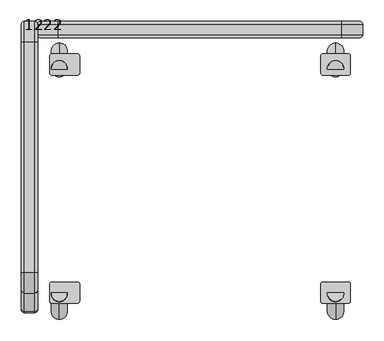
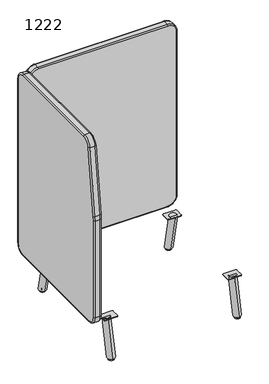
"""IFC4 building model written with IfcOpenShell, lengths in millimetres: furniture geometry, Laguna-Modular-Hideout-ERG : 1222."""

from ifc_helpers import new_model, si_unit, point, frame, frame_2d, origin, place, context, project, spatial, polyline, circle_curve, ellipse_curve, trimmed, segment, composite_curve, outline, extrude, source, transform, mapped, element, save
from ifc_brep_helpers import plane_surface, cylinder_surface, revolved_surface, advanced_brep


def furniture_1222_d6062fc0(model_context):
    return source(origin(), model_context, "Body", "SolidModel", [
        advanced_brep(
        [(-4630.9921763, 1222.7258502, 203.2), (-4630.9921763, 1272.2558502, 252.73), (-4624.6421763, 1265.9058502, 252.73), (-4624.6421763, 1222.7258502, 209.55), (-4656.3921763, 1222.7258502, 203.2), (-4656.3921763, 1272.2558502, 252.73), (-4662.7421763, 1222.7258502, 209.55), (-4662.7421763, 1265.9058502, 252.73), (-4624.6421763, 638.2210502, 209.55), (-4630.9921763, 638.2210502, 203.2), (-4656.3921763, 638.2210502, 203.2), (-4662.7421763, 638.2210502, 209.55), (-4630.9921763, 683.6397434, 1189.5820944), (-4624.6421763, 683.6397434, 1183.2320944), (-4624.6421763, 1222.7258502, 1183.2320944), (-4630.9921763, 1222.7258502, 1189.5820944), (-4656.3921763, 1222.7258502, 1189.5820944), (-4656.3921763, 683.6397434, 1189.5820944), (-4662.7421763, 1222.7258502, 1183.2320944), (-4662.7421763, 683.6397434, 1183.2320944), (-4624.6421763, 1265.9058502, 1140.0520944), (-4630.9921763, 1272.2558502, 1140.0520944), (-4656.3921763, 1272.2558502, 1140.0520944), (-4662.7421763, 1265.9058502, 1140.0520944), (-4624.6421763, 595.9808502, 251.7902), (-4630.9921763, 589.6308502, 251.7902), (-4656.3921763, 589.6308502, 251.7902), (-4662.7421763, 595.9808502, 251.7902), (-4624.6421763, 595.9808502, 775.6528209), (-4630.9921763, 589.6308502, 775.6528209), (-4656.3921763, 589.6308502, 775.6528209), (-4662.7421763, 595.9808502, 775.6528209), (-4630.9921763, 591.2362338, 800.9039123), (-4624.6421763, 597.5351069, 800.0997374), (-4624.6421763, 641.7396393, 1146.3412658), (-4630.9921763, 635.4407662, 1147.1454407), (-4656.3921763, 635.4407662, 1147.1454407), (-4656.3921763, 591.2362338, 800.9039123), (-4662.7421763, 641.7396393, 1146.3412658), (-4662.7421763, 597.5351069, 800.0997374)],
        [
            (0, 1, circle_curve(frame((-4630.9921763, 1222.7258502, 252.73), z_axis=(1.0, 0.0, 0.0), x_axis=(0.0, 1.0, 0.0)), 49.53)),
            (1, 2, circle_curve(frame((-4630.9921763, 1265.9058502, 252.73), z_axis=(0.0, 0.0, -1.0), x_axis=(0.0, 1.0, 0.0)), 6.35)),
            (2, 3, circle_curve(frame((-4624.6421763, 1222.7258502, 252.73), z_axis=(-1.0, 0.0, 0.0), x_axis=(0.0, 1.0, 0.0)), 43.18)),
            (3, 0, circle_curve(frame((-4630.9921763, 1222.7258502, 209.55), z_axis=(0.0, 1.0, 0.0), x_axis=(0.0, 0.0, -1.0)), 6.35)),
            (0, 4),
            (4, 5, circle_curve(frame((-4656.3921763, 1222.7258502, 252.73), z_axis=(1.0, 0.0, 0.0), x_axis=(0.0, 1.0, 0.0)), 49.53)),
            (5, 1),
            (4, 6, circle_curve(frame((-4656.3921763, 1222.7258502, 209.55), z_axis=(0.0, 1.0, 0.0), x_axis=(0.0, 0.0, -1.0)), 6.35)),
            (6, 7, circle_curve(frame((-4662.7421763, 1222.7258502, 252.73), z_axis=(1.0, 0.0, 0.0), x_axis=(0.0, 1.0, 0.0)), 43.18)),
            (7, 5, circle_curve(frame((-4656.3921763, 1265.9058502, 252.73), z_axis=(0.0, 0.0, -1.0), x_axis=(0.0, 1.0, 0.0)), 6.35)),
            (3, 8),
            (8, 9, circle_curve(frame((-4630.9921763, 638.2210502, 209.55), z_axis=(0.0, 1.0, 0.0), x_axis=(0.0, 0.0, -1.0)), 6.35)),
            (9, 0),
            (9, 10),
            (10, 4),
            (10, 11, circle_curve(frame((-4656.3921763, 638.2210502, 209.55), z_axis=(0.0, 1.0, 0.0), x_axis=(0.0, 0.0, -1.0)), 6.35)),
            (11, 6),
            (12, 13, circle_curve(frame((-4630.9921763, 683.6397434, 1183.2320944), z_axis=(0.0, 1.0, 0.0), x_axis=(0.0, 0.0, 1.0)), 6.35)),
            (13, 14),
            (14, 15, circle_curve(frame((-4630.9921763, 1222.7258502, 1183.2320944), z_axis=(0.0, -1.0, 0.0), x_axis=(0.0, 0.0, 1.0)), 6.35)),
            (15, 12),
            (15, 16),
            (16, 17),
            (17, 12),
            (16, 18, circle_curve(frame((-4656.3921763, 1222.7258502, 1183.2320944), z_axis=(0.0, -1.0, 0.0), x_axis=(0.0, 0.0, 1.0)), 6.35)),
            (18, 19),
            (19, 17, circle_curve(frame((-4656.3921763, 683.6397434, 1183.2320944), z_axis=(0.0, 1.0, 0.0), x_axis=(0.0, 0.0, 1.0)), 6.35)),
            (14, 20, circle_curve(frame((-4624.6421763, 1222.7258502, 1140.0520944), z_axis=(-1.0, 0.0, 0.0), x_axis=(0.0, 0.0, 1.0)), 43.18)),
            (20, 21, circle_curve(frame((-4630.9921763, 1265.9058502, 1140.0520944), z_axis=(0.0, 0.0, 1.0), x_axis=(0.0, 1.0, 0.0)), 6.35)),
            (21, 15, circle_curve(frame((-4630.9921763, 1222.7258502, 1140.0520944), z_axis=(1.0, 0.0, 0.0), x_axis=(0.0, 0.0, 1.0)), 49.53)),
            (21, 22),
            (22, 16, circle_curve(frame((-4656.3921763, 1222.7258502, 1140.0520944), z_axis=(1.0, 0.0, 0.0), x_axis=(0.0, 0.0, 1.0)), 49.53)),
            (22, 23, circle_curve(frame((-4656.3921763, 1265.9058502, 1140.0520944), z_axis=(0.0, 0.0, 1.0), x_axis=(0.0, 1.0, 0.0)), 6.35)),
            (23, 18, circle_curve(frame((-4662.7421763, 1222.7258502, 1140.0520944), z_axis=(1.0, 0.0, 0.0), x_axis=(0.0, 0.0, 1.0)), 43.18)),
            (1, 21),
            (20, 2),
            (5, 22),
            (7, 23),
            (8, 24, circle_curve(frame((-4624.6421763, 638.2210502, 251.7902), z_axis=(-1.0, 0.0, 0.0), x_axis=(0.0, 0.0, -1.0)), 42.2402)),
            (24, 25, circle_curve(frame((-4630.9921763, 595.9808502, 251.7902), z_axis=(0.0, 0.0, -1.0), x_axis=(0.0, -1.0, 0.0)), 6.35)),
            (25, 9, circle_curve(frame((-4630.9921763, 638.2210502, 251.7902), z_axis=(1.0, 0.0, 0.0), x_axis=(0.0, 0.0, -1.0)), 48.5902)),
            (25, 26),
            (26, 10, circle_curve(frame((-4656.3921763, 638.2210502, 251.7902), z_axis=(1.0, 0.0, 0.0), x_axis=(0.0, 0.0, -1.0)), 48.5902)),
            (26, 27, circle_curve(frame((-4656.3921763, 595.9808502, 251.7902), z_axis=(0.0, 0.0, -1.0), x_axis=(0.0, -1.0, 0.0)), 6.35)),
            (27, 11, circle_curve(frame((-4662.7421763, 638.2210502, 251.7902), z_axis=(1.0, 0.0, 0.0), x_axis=(0.0, 0.0, -1.0)), 42.2402)),
            (24, 28),
            (28, 29, circle_curve(frame((-4630.9921763, 595.9808502, 775.6528209), z_axis=(0.0, 0.0, -1.0), x_axis=(0.0, -1.0, 0.0)), 6.35)),
            (29, 25),
            (29, 30),
            (30, 26),
            (30, 31, circle_curve(frame((-4656.3921763, 595.9808502, 775.6528209), z_axis=(0.0, 0.0, -1.0), x_axis=(0.0, -1.0, 0.0)), 6.35)),
            (31, 27),
            (32, 33, circle_curve(frame((-4630.9921763, 597.5351069, 800.0997374), z_axis=(0.0, 0.12664171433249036, 0.9919485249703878), x_axis=(0.0, -0.9919485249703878, 0.12664171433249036)), 6.35)),
            (33, 34),
            (34, 35, circle_curve(frame((-4630.9921763, 641.7396393, 1146.3412658), z_axis=(0.0, -0.12664171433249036, -0.9919485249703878), x_axis=(0.0, -0.9919485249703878, 0.12664171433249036)), 6.35)),
            (35, 32),
            (35, 36),
            (36, 37),
            (37, 32),
            (36, 38, circle_curve(frame((-4656.3921763, 641.7396393, 1146.3412658), z_axis=(0.0, -0.12664171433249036, -0.9919485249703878), x_axis=(0.0, -0.9919485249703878, 0.12664171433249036)), 6.35)),
            (38, 39),
            (39, 37, circle_curve(frame((-4656.3921763, 597.5351069, 800.0997374), z_axis=(0.0, 0.12664171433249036, 0.9919485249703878), x_axis=(0.0, -0.9919485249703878, 0.12664171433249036)), 6.35)),
            (28, 33, circle_curve(frame((-4624.6421763, 789.0208502, 775.6528209), z_axis=(-1.0, 0.0, 0.0), x_axis=(0.0, -1.0, 0.0)), 193.04)),
            (32, 29, circle_curve(frame((-4630.9921763, 789.0208502, 775.6528209), z_axis=(1.0, 0.0, 0.0), x_axis=(0.0, -1.0, 0.0)), 199.39)),
            (37, 30, circle_curve(frame((-4656.3921763, 789.0208502, 775.6528209), z_axis=(1.0, 0.0, 0.0), x_axis=(0.0, -1.0, 0.0)), 199.39)),
            (39, 31, circle_curve(frame((-4662.7421763, 789.0208502, 775.6528209), z_axis=(1.0, 0.0, 0.0), x_axis=(0.0, -1.0, 0.0)), 193.04)),
            (13, 34, circle_curve(frame((-4624.6421763, 683.6397434, 1140.9918944), z_axis=(1.0, 0.0, 0.0), x_axis=(0.0, -0.9919485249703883, 0.12664171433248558)), 42.2402)),
            (12, 35, circle_curve(frame((-4630.9921763, 683.6397434, 1140.9918944), z_axis=(1.0, 0.0, 0.0), x_axis=(0.0, -0.9919485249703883, 0.12664171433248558)), 48.5902)),
            (17, 36, circle_curve(frame((-4656.3921763, 683.6397434, 1140.9918944), z_axis=(1.0, 0.0, 0.0), x_axis=(0.0, -0.9919485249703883, 0.12664171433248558)), 48.5902)),
            (19, 38, circle_curve(frame((-4662.7421763, 683.6397434, 1140.9918944), z_axis=(1.0, 0.0, 0.0), x_axis=(0.0, -0.9919485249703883, 0.12664171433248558)), 42.2402)),
        ],
        [
            revolved_surface(trimmed(ellipse_curve(frame((-4630.9921763, 1265.9058502, 252.73), z_axis=(0.0, 0.0, 1.0), x_axis=(0.0, 1.0, 0.0)), 6.35, 6.35), [point((-4624.6421763, 1265.9058502, 252.73))], [point((-4630.9921763, 1272.2558502, 252.73))], True, "CARTESIAN"), (-4662.7421763, 1222.7258502, 252.73), (-1.0, 0.0, 0.0)),
            cylinder_surface(frame((-4662.7421763, 1222.7258502, 252.73), z_axis=(-1.0, 0.0, 0.0), x_axis=(0.0, 1.0, 0.0)), 49.53),
            revolved_surface(trimmed(ellipse_curve(frame((-4656.3921763, 1265.9058502, 252.73), z_axis=(0.0, 0.0, 1.0), x_axis=(0.0, 1.0, 0.0)), 6.35, 6.35), [point((-4656.3921763, 1272.2558502, 252.73))], [point((-4662.7421763, 1265.9058502, 252.73))], True, "CARTESIAN"), (-4662.7421763, 1222.7258502, 252.73), (-1.0, 0.0, 0.0)),
            cylinder_surface(frame((-4630.9921763, 1222.7258502, 209.55), z_axis=(0.0, 1.0, 0.0), x_axis=(0.0, 0.0, -1.0)), 6.35),
            plane_surface(frame((-4630.9921763, 1222.7258502, 203.2), z_axis=(0.0, 0.0, -1.0), x_axis=(0.0, -1.0, 0.0))),
            cylinder_surface(frame((-4656.3921763, 1222.7258502, 209.55), z_axis=(0.0, 1.0, 0.0), x_axis=(0.0, 0.0, -1.0)), 6.35),
            cylinder_surface(frame((-4630.9921763, 683.6397434, 1183.2320944), z_axis=(0.0, -1.0, 0.0), x_axis=(0.0, 0.0, 1.0)), 6.35),
            plane_surface(frame((-4630.9921763, 683.6397434, 1189.5820944), z_axis=(0.0, 0.0, 1.0), x_axis=(0.0, 1.0, 0.0))),
            cylinder_surface(frame((-4656.3921763, 683.6397434, 1183.2320944), z_axis=(0.0, -1.0, 0.0), x_axis=(0.0, 0.0, 1.0)), 6.35),
            revolved_surface(trimmed(ellipse_curve(frame((-4630.9921763, 1222.7258502, 1183.2320944), z_axis=(0.0, -1.0, 0.0), x_axis=(0.0, 0.0, 1.0)), 6.35, 6.35), [point((-4624.6421763, 1222.7258502, 1183.2320944))], [point((-4630.9921763, 1222.7258502, 1189.5820944))], True, "CARTESIAN"), (-4662.7421763, 1222.7258502, 1140.0520944), (-1.0, 0.0, 0.0)),
            cylinder_surface(frame((-4662.7421763, 1222.7258502, 1140.0520944), z_axis=(-1.0, 0.0, 0.0), x_axis=(0.0, 0.0, 1.0)), 49.53),
            revolved_surface(trimmed(ellipse_curve(frame((-4656.3921763, 1222.7258502, 1183.2320944), z_axis=(0.0, -1.0, 0.0), x_axis=(0.0, 0.0, 1.0)), 6.35, 6.35), [point((-4656.3921763, 1222.7258502, 1189.5820944))], [point((-4662.7421763, 1222.7258502, 1183.2320944))], True, "CARTESIAN"), (-4662.7421763, 1222.7258502, 1140.0520944), (-1.0, 0.0, 0.0)),
            cylinder_surface(frame((-4630.9921763, 1265.9058502, 1140.0520944), z_axis=(0.0, 0.0, 1.0), x_axis=(0.0, 1.0, 0.0)), 6.35),
            plane_surface(frame((-4630.9921763, 1272.2558502, 1140.0520944), z_axis=(0.0, 1.0, 0.0), x_axis=(0.0, 0.0, -1.0))),
            cylinder_surface(frame((-4656.3921763, 1265.9058502, 1140.0520944), z_axis=(0.0, 0.0, 1.0), x_axis=(0.0, 1.0, 0.0)), 6.35),
            revolved_surface(trimmed(ellipse_curve(frame((-4630.9921763, 638.2210502, 209.55), z_axis=(0.0, 1.0, 0.0), x_axis=(0.0, 0.0, -1.0)), 6.35, 6.35), [point((-4624.6421763, 638.2210502, 209.55))], [point((-4630.9921763, 638.2210502, 203.2))], True, "CARTESIAN"), (-4662.7421763, 638.2210502, 251.7902), (-1.0, 0.0, 0.0)),
            cylinder_surface(frame((-4662.7421763, 638.2210502, 251.7902), z_axis=(-1.0, 0.0, 0.0), x_axis=(0.0, 0.0, -1.0)), 48.5902),
            revolved_surface(trimmed(ellipse_curve(frame((-4656.3921763, 638.2210502, 209.55), z_axis=(0.0, 1.0, 0.0), x_axis=(0.0, 0.0, -1.0)), 6.35, 6.35), [point((-4656.3921763, 638.2210502, 203.2))], [point((-4662.7421763, 638.2210502, 209.55))], True, "CARTESIAN"), (-4662.7421763, 638.2210502, 251.7902), (-1.0, 0.0, 0.0)),
            cylinder_surface(frame((-4630.9921763, 595.9808502, 251.7902), z_axis=(0.0, 0.0, -1.0), x_axis=(0.0, -1.0, 0.0)), 6.35),
            plane_surface(frame((-4630.9921763, 589.6308502, 251.7902), z_axis=(0.0, -1.0, 0.0), x_axis=(0.0, 0.0, 1.0))),
            cylinder_surface(frame((-4656.3921763, 595.9808502, 251.7902), z_axis=(0.0, 0.0, -1.0), x_axis=(0.0, -1.0, 0.0)), 6.35),
            cylinder_surface(frame((-4630.9921763, 597.5351069, 800.0997374), z_axis=(0.0, -0.12664171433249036, -0.9919485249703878), x_axis=(0.0, -0.9919485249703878, 0.12664171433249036)), 6.35),
            plane_surface(frame((-4630.9921763, 591.2362338, 800.9039123), z_axis=(0.0, -0.9919485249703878, 0.1266417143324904), x_axis=(0.0, 0.1266417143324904, 0.9919485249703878))),
            cylinder_surface(frame((-4656.3921763, 597.5351069, 800.0997374), z_axis=(0.0, -0.12664171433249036, -0.9919485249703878), x_axis=(0.0, -0.9919485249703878, 0.12664171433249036)), 6.35),
            revolved_surface(trimmed(ellipse_curve(frame((-4630.9921763, 595.9808502, 775.6528209), z_axis=(0.0, 0.0, -1.0), x_axis=(0.0, -1.0, 0.0)), 6.35, 6.35), [point((-4624.6421763, 595.9808502, 775.6528209))], [point((-4630.9921763, 589.6308502, 775.6528209))], True, "CARTESIAN"), (-4662.7421763, 789.0208502, 775.6528209), (-1.0, 0.0, 0.0)),
            cylinder_surface(frame((-4662.7421763, 789.0208502, 775.6528209), z_axis=(-1.0, 0.0, 0.0), x_axis=(0.0, -1.0, 0.0)), 199.39),
            revolved_surface(trimmed(ellipse_curve(frame((-4656.3921763, 595.9808502, 775.6528209), z_axis=(0.0, 0.0, -1.0), x_axis=(0.0, -1.0, 0.0)), 6.35, 6.35), [point((-4656.3921763, 589.6308502, 775.6528209))], [point((-4662.7421763, 595.9808502, 775.6528209))], True, "CARTESIAN"), (-4662.7421763, 789.0208502, 775.6528209), (-1.0, 0.0, 0.0)),
            plane_surface(frame((-4624.6421763, 683.6397434, 1140.9918944), z_axis=(1.0, 0.0, 0.0), x_axis=(0.0, -0.9919485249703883, 0.12664171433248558))),
            revolved_surface(trimmed(ellipse_curve(frame((-4630.9921763, 641.7396393, 1146.3412658), z_axis=(0.0, -0.12664171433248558, -0.9919485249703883), x_axis=(0.0, -0.9919485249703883, 0.12664171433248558)), 6.35, 6.35), [point((-4624.6421763, 641.7396393, 1146.3412658))], [point((-4630.9921763, 635.4407662, 1147.1454407))], True, "CARTESIAN"), (-4662.7421763, 683.6397434, 1140.9918944), (-1.0, 0.0, 0.0)),
            cylinder_surface(frame((-4662.7421763, 683.6397434, 1140.9918944), z_axis=(-1.0, 0.0, 0.0), x_axis=(0.0, -0.9919485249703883, 0.12664171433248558)), 48.5902),
            revolved_surface(trimmed(ellipse_curve(frame((-4656.3921763, 641.7396393, 1146.3412658), z_axis=(0.0, -0.12664171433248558, -0.9919485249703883), x_axis=(0.0, -0.9919485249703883, 0.12664171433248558)), 6.35, 6.35), [point((-4656.3921763, 635.4407662, 1147.1454407))], [point((-4662.7421763, 641.7396393, 1146.3412658))], True, "CARTESIAN"), (-4662.7421763, 683.6397434, 1140.9918944), (-1.0, 0.0, 0.0)),
            plane_surface(frame((-4662.7421763, 683.6397434, 1140.9918944), z_axis=(-1.0, 0.0, 0.0), x_axis=(0.0, -0.9919485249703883, 0.12664171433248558))),
        ],
        [
            (0, [[1, 2, 3, 4]]),
            (1, [[-1, 5, 6, 7]]),
            (2, [[-6, 8, 9, 10]]),
            (3, [[-4, 11, 12, 13]]),
            (4, [[-5, -13, 14, 15]]),
            (5, [[-8, -15, 16, 17]]),
            (6, [[18, 19, 20, 21]]),
            (7, [[-21, 22, 23, 24]]),
            (8, [[-23, 25, 26, 27]]),
            (9, [[-20, 28, 29, 30]]),
            (10, [[-22, -30, 31, 32]]),
            (11, [[-25, -32, 33, 34]]),
            (12, [[-2, 35, -29, 36]]),
            (13, [[-7, 37, -31, -35]]),
            (14, [[-10, 38, -33, -37]]),
            (15, [[-12, 39, 40, 41]]),
            (16, [[-14, -41, 42, 43]]),
            (17, [[-16, -43, 44, 45]]),
            (18, [[-40, 46, 47, 48]]),
            (19, [[-42, -48, 49, 50]]),
            (20, [[-44, -50, 51, 52]]),
            (21, [[53, 54, 55, 56]]),
            (22, [[-56, 57, 58, 59]]),
            (23, [[-58, 60, 61, 62]]),
            (24, [[-47, 63, -53, 64]]),
            (25, [[-49, -64, -59, 65]]),
            (26, [[-51, -65, -62, 66]]),
            (27, [[-3, -36, -28, -19, 67, -54, -63, -46, -39, -11]]),
            (28, [[-18, 68, -55, -67]]),
            (29, [[-24, 69, -57, -68]]),
            (30, [[-27, 70, -60, -69]]),
            (31, [[-9, -17, -45, -52, -66, -61, -70, -26, -34, -38]]),
        ],
    ),
        advanced_brep(
        [(-3926.1421763, 1179.9236711, 207.1607177), (-3926.1421763, 1142.6562475, 199.2392823), (-3926.1421763, 1182.8462897, 10.16), (-3926.1421763, 1221.7974663, 10.16)],
        [
            (0, 1, circle_curve(frame((-3926.1421763, 1161.2899593, 203.2), z_axis=(0.0, -0.2079116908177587, 0.9781476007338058), x_axis=(0.0, -0.9781476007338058, -0.2079116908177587)), 19.05)),
            (1, 0, circle_curve(frame((-3926.1421763, 1161.2899593, 203.2), z_axis=(0.0, -0.2079116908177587, 0.9781476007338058), x_axis=(0.0, -0.9781476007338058, -0.2079116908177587)), 19.05)),
            (1, 2),
            (2, 3, ellipse_curve(frame((-3926.1421763, 1202.321878, 10.16), z_axis=(0.0, 0.0, 1.0), x_axis=(0.0, -0.9999999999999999, 0.0)), 19.4755883, 19.05)),
            (3, 0),
            (3, 2, ellipse_curve(frame((-3926.1421763, 1202.321878, 10.16), z_axis=(0.0, 0.0, 1.0), x_axis=(0.0, -0.9999999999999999, 0.0)), 19.4755883, 19.05)),
        ],
        [
            plane_surface(frame((-3926.1421763, 1161.2899593, 203.2), z_axis=(0.0, -0.2079116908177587, 0.9781476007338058), x_axis=(-1.0, 0.0, 0.0))),
            cylinder_surface(frame((-3926.1421763, 1161.2899593, 203.2), z_axis=(0.0, -0.2079116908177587, 0.9781476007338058), x_axis=(0.0, -0.9781476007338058, -0.2079116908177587)), 19.05),
            plane_surface(frame((-4662.7421763, 1308.7683502, 10.16), z_axis=(0.0, 0.0, -1.0), x_axis=(-1.0, 0.0, 0.0))),
        ],
        [
            (0, [[1, 2]]),
            (1, [[-2, 3, 4, 5]]),
            (1, [[-1, -5, 6, -3]]),
            (2, [[-4, -6]]),
        ],
    ),
        advanced_brep(
        [(-3926.1421763, 652.9523278, 199.2392823), (-3926.1421763, 615.6849042, 207.1607177), (-3926.1421763, 612.7622857, 10.16), (-3926.1421763, 573.811109, 10.16)],
        [
            (0, 1, circle_curve(frame((-3926.1421763, 634.318616, 203.2), z_axis=(0.0, 0.20791169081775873, 0.9781476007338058), x_axis=(0.0, -0.9781476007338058, 0.20791169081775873)), 19.05)),
            (1, 0, circle_curve(frame((-3926.1421763, 634.318616, 203.2), z_axis=(0.0, 0.20791169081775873, 0.9781476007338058), x_axis=(0.0, -0.9781476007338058, 0.20791169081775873)), 19.05)),
            (0, 2),
            (2, 3, ellipse_curve(frame((-3926.1421763, 593.2866973, 10.16), z_axis=(0.0, 0.0, 1.0), x_axis=(0.0, 1.0, 0.0)), 19.4755883, 19.05)),
            (3, 1),
            (3, 2, ellipse_curve(frame((-3926.1421763, 593.2866973, 10.16), z_axis=(0.0, 0.0, 1.0), x_axis=(0.0, 1.0, 0.0)), 19.4755883, 19.05)),
        ],
        [
            plane_surface(frame((-3926.1421763, 634.318616, 203.2), z_axis=(0.0, 0.20791169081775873, 0.9781476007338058), x_axis=(-1.0, 0.0, 0.0))),
            cylinder_surface(frame((-3926.1421763, 634.318616, 203.2), z_axis=(0.0, 0.20791169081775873, 0.9781476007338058), x_axis=(0.0, -0.9781476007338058, 0.20791169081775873)), 19.05),
            plane_surface(frame((-4662.7421763, 1308.7683502, 10.16), z_axis=(0.0, 0.0, -1.0), x_axis=(-1.0, 0.0, 0.0))),
        ],
        [
            (0, [[1, 2]]),
            (1, [[-1, 3, 4, 5]]),
            (1, [[-2, -5, 6, -3]]),
            (2, [[-4, -6]]),
        ],
    ),
        advanced_brep(
        [(-4573.8421763, 1142.6562475, 199.2392823), (-4573.8421763, 1179.9236711, 207.1607177), (-4573.8421763, 1221.7974663, 10.16), (-4573.8421763, 1182.8462897, 10.16)],
        [
            (0, 1, circle_curve(frame((-4573.8421763, 1161.2899593, 203.2), z_axis=(0.0, -0.20791169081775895, 0.9781476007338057), x_axis=(0.0, 0.9781476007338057, 0.20791169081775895)), 19.05)),
            (1, 0, circle_curve(frame((-4573.8421763, 1161.2899593, 203.2), z_axis=(0.0, -0.20791169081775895, 0.9781476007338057), x_axis=(0.0, 0.9781476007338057, 0.20791169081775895)), 19.05)),
            (1, 2),
            (2, 3, ellipse_curve(frame((-4573.8421763, 1202.321878, 10.16), z_axis=(0.0, 0.0, 1.0), x_axis=(0.0, -1.0, 0.0)), 19.4755883, 19.05)),
            (3, 0),
            (3, 2, ellipse_curve(frame((-4573.8421763, 1202.321878, 10.16), z_axis=(0.0, 0.0, 1.0), x_axis=(0.0, -1.0, 0.0)), 19.4755883, 19.05)),
        ],
        [
            plane_surface(frame((-4561.1421763, 1161.2899593, 203.2), z_axis=(0.0, -0.20791169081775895, 0.9781476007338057), x_axis=(1.0, 0.0, 0.0))),
            cylinder_surface(frame((-4573.8421763, 1161.2899593, 203.2), z_axis=(0.0, -0.20791169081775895, 0.9781476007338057), x_axis=(0.0, 0.9781476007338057, 0.20791169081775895)), 19.05),
            plane_surface(frame((-4662.7421763, 1308.7683502, 10.16), z_axis=(0.0, 0.0, -1.0), x_axis=(-1.0, 0.0, 0.0))),
        ],
        [
            (0, [[1, 2]]),
            (1, [[-2, 3, 4, 5]]),
            (1, [[-1, -5, 6, -3]]),
            (2, [[-4, -6]]),
        ],
    ),
        advanced_brep(
        [(-4573.8421763, 615.6849042, 207.1607177), (-4573.8421763, 652.9523278, 199.2392823), (-4573.8421763, 573.811109, 10.16), (-4573.8421763, 612.7622857, 10.16)],
        [
            (0, 1, circle_curve(frame((-4573.8421763, 634.318616, 203.2), z_axis=(0.0, 0.20791169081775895, 0.9781476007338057), x_axis=(0.0, 0.9781476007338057, -0.20791169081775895)), 19.05)),
            (1, 0, circle_curve(frame((-4573.8421763, 634.318616, 203.2), z_axis=(0.0, 0.20791169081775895, 0.9781476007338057), x_axis=(0.0, 0.9781476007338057, -0.20791169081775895)), 19.05)),
            (0, 2),
            (2, 3, ellipse_curve(frame((-4573.8421763, 593.2866973, 10.16), z_axis=(0.0, 0.0, 1.0), x_axis=(0.0, 1.0, 0.0)), 19.4755883, 19.05)),
            (3, 1),
            (3, 2, ellipse_curve(frame((-4573.8421763, 593.2866973, 10.16), z_axis=(0.0, 0.0, 1.0), x_axis=(0.0, 1.0, 0.0)), 19.4755883, 19.05)),
        ],
        [
            plane_surface(frame((-4561.1421763, 634.318616, 203.2), z_axis=(0.0, 0.20791169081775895, 0.9781476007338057), x_axis=(1.0, 0.0, 0.0))),
            cylinder_surface(frame((-4573.8421763, 634.318616, 203.2), z_axis=(0.0, 0.20791169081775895, 0.9781476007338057), x_axis=(0.0, 0.9781476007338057, -0.20791169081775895)), 19.05),
            plane_surface(frame((-4662.7421763, 1308.7683502, 10.16), z_axis=(0.0, 0.0, -1.0), x_axis=(-1.0, 0.0, 0.0))),
        ],
        [
            (0, [[1, 2]]),
            (1, [[-1, 3, 4, 5]]),
            (1, [[-2, -5, 6, -3]]),
            (2, [[-4, -6]]),
        ],
    ),
        extrude(outline(composite_curve([segment(polyline([(-4531.2971763, 611.8558502), (-4590.9871763, 611.8558502)]), True, "CONTINUOUS"), segment(trimmed(circle_curve(frame_2d((-4590.9871763, 616.9358502)), 5.08), [point((-4590.9871763, 611.8558502))], [point((-4596.0671763, 616.9358502))], False, "CARTESIAN"), True, "CONTINUOUS"), segment(polyline([(-4596.0671763, 616.9358502), (-4596.0671763, 656.3058502)]), True, "CONTINUOUS"), segment(trimmed(circle_curve(frame_2d((-4590.9871763, 656.3058502)), 5.08), [point((-4596.0671763, 656.3058502))], [point((-4590.9871763, 661.3858502))], False, "CARTESIAN"), True, "CONTINUOUS"), segment(polyline([(-4590.9871763, 661.3858502), (-4531.2971763, 661.3858502)]), True, "CONTINUOUS"), segment(trimmed(circle_curve(frame_2d((-4531.2971763, 656.3058502)), 5.08), [point((-4531.2971763, 661.3858502))], [point((-4526.2171763, 656.3058502))], False, "CARTESIAN"), True, "CONTINUOUS"), segment(polyline([(-4526.2171763, 656.3058502), (-4526.2171763, 616.9358502)]), True, "CONTINUOUS"), segment(trimmed(circle_curve(frame_2d((-4531.2971763, 616.9358502)), 5.08), [point((-4526.2171763, 616.9358502))], [point((-4531.2971763, 611.8558502))], False, "CARTESIAN"), True, "CONTINUOUS")], self_intersect=False)), frame((0.0, 0.0, 200.66), z_axis=(0.0, 0.0, 1.0), x_axis=(1.0, 0.0, 0.0)), (0.0, 0.0, 1.0), 2.54),
        extrude(outline(composite_curve([segment(trimmed(circle_curve(frame_2d((-4531.2971763, 1190.9758502)), 5.08), [point((-4531.2971763, 1196.0558502))], [point((-4526.2171763, 1190.9758502))], False, "CARTESIAN"), True, "CONTINUOUS"), segment(polyline([(-4526.2171763, 1190.9758502), (-4526.2171763, 1151.6058502)]), True, "CONTINUOUS"), segment(trimmed(circle_curve(frame_2d((-4531.2971763, 1151.6058502)), 5.08), [point((-4526.2171763, 1151.6058502))], [point((-4531.2971763, 1146.5258502))], False, "CARTESIAN"), True, "CONTINUOUS"), segment(polyline([(-4531.2971763, 1146.5258502), (-4590.9871763, 1146.5258502)]), True, "CONTINUOUS"), segment(trimmed(circle_curve(frame_2d((-4590.9871763, 1151.6058502)), 5.08), [point((-4590.9871763, 1146.5258502))], [point((-4596.0671763, 1151.6058502))], False, "CARTESIAN"), True, "CONTINUOUS"), segment(polyline([(-4596.0671763, 1151.6058502), (-4596.0671763, 1190.9758502)]), True, "CONTINUOUS"), segment(trimmed(circle_curve(frame_2d((-4590.9871763, 1190.9758502)), 5.08), [point((-4596.0671763, 1190.9758502))], [point((-4590.9871763, 1196.0558502))], False, "CARTESIAN"), True, "CONTINUOUS"), segment(polyline([(-4590.9871763, 1196.0558502), (-4531.2971763, 1196.0558502)]), True, "CONTINUOUS")], self_intersect=False)), frame((0.0, 0.0, 200.66), z_axis=(0.0, 0.0, 1.0), x_axis=(1.0, 0.0, 0.0)), (0.0, 0.0, 1.0), 2.54),
        extrude(outline(composite_curve([segment(trimmed(circle_curve(frame_2d((-3955.986922, 616.9358502)), 5.08), [point((-3955.986922, 611.8558502))], [point((-3961.066922, 616.9358502))], False, "CARTESIAN"), True, "CONTINUOUS"), segment(polyline([(-3961.066922, 616.9358502), (-3961.066922, 656.3058502)]), True, "CONTINUOUS"), segment(trimmed(circle_curve(frame_2d((-3955.986922, 656.3058502)), 5.08), [point((-3961.066922, 656.3058502))], [point((-3955.986922, 661.3858502))], False, "CARTESIAN"), True, "CONTINUOUS"), segment(polyline([(-3955.986922, 661.3858502), (-3896.296922, 661.3858502)]), True, "CONTINUOUS"), segment(trimmed(circle_curve(frame_2d((-3896.296922, 656.3058502)), 5.08), [point((-3896.296922, 661.3858502))], [point((-3891.216922, 656.3058502))], False, "CARTESIAN"), True, "CONTINUOUS"), segment(polyline([(-3891.216922, 656.3058502), (-3891.216922, 616.9358502)]), True, "CONTINUOUS"), segment(trimmed(circle_curve(frame_2d((-3896.296922, 616.9358502)), 5.08), [point((-3891.216922, 616.9358502))], [point((-3896.296922, 611.8558502))], False, "CARTESIAN"), True, "CONTINUOUS"), segment(polyline([(-3896.296922, 611.8558502), (-3955.986922, 611.8558502)]), True, "CONTINUOUS")], self_intersect=False)), frame((0.0, 0.0, 200.66), z_axis=(0.0, 0.0, 1.0), x_axis=(1.0, 0.0, 0.0)), (0.0, 0.0, 1.0), 2.54),
        extrude(outline(composite_curve([segment(polyline([(-3955.986922, 1196.0558502), (-3896.296922, 1196.0558502)]), True, "CONTINUOUS"), segment(trimmed(circle_curve(frame_2d((-3896.296922, 1190.9758502)), 5.08), [point((-3896.296922, 1196.0558502))], [point((-3891.216922, 1190.9758502))], False, "CARTESIAN"), True, "CONTINUOUS"), segment(polyline([(-3891.216922, 1190.9758502), (-3891.216922, 1151.6058502)]), True, "CONTINUOUS"), segment(trimmed(circle_curve(frame_2d((-3896.296922, 1151.6058502)), 5.08), [point((-3891.216922, 1151.6058502))], [point((-3896.296922, 1146.5258502))], False, "CARTESIAN"), True, "CONTINUOUS"), segment(polyline([(-3896.296922, 1146.5258502), (-3955.986922, 1146.5258502)]), True, "CONTINUOUS"), segment(trimmed(circle_curve(frame_2d((-3955.986922, 1151.6058502)), 5.08), [point((-3955.986922, 1146.5258502))], [point((-3961.066922, 1151.6058502))], False, "CARTESIAN"), True, "CONTINUOUS"), segment(polyline([(-3961.066922, 1151.6058502), (-3961.066922, 1190.9758502)]), True, "CONTINUOUS"), segment(trimmed(circle_curve(frame_2d((-3955.986922, 1190.9758502)), 5.08), [point((-3961.066922, 1190.9758502))], [point((-3955.986922, 1196.0558502))], False, "CARTESIAN"), True, "CONTINUOUS")], self_intersect=False)), frame((0.0, 0.0, 200.66), z_axis=(0.0, 0.0, 1.0), x_axis=(1.0, 0.0, 0.0)), (0.0, 0.0, 1.0), 2.54),
        advanced_brep(
        [(-3926.1421763, 1203.5841717, 10.16), (-3926.1421763, 1199.3411235, 10.16), (-3926.1421763, 1207.8272198, 10.16), (-3926.1421763, 1217.6625251, 0.0), (-3926.1421763, 1189.5058182, 0.0), (-3926.1421763, 1203.5841717, 0.0), (-3926.1421763, 1217.6625251, 3.9615026), (-3926.1421763, 1189.5058182, 3.9615026), (-3926.1421763, 1207.8272198, 3.9615026), (-3926.1421763, 1199.3411235, 3.9615026)],
        [
            (0, 1),
            (1, 2, circle_curve(frame((-3926.1421763, 1203.5841717, 10.16), z_axis=(0.0, 0.0, 1.0), x_axis=(0.0, -1.0, 0.0)), 4.2430482)),
            (2, 0),
            (2, 1, circle_curve(frame((-3926.1421763, 1203.5841717, 10.16), z_axis=(0.0, 0.0, 1.0), x_axis=(0.0, -1.0, 0.0)), 4.2430482)),
            (3, 4, circle_curve(frame((-3926.1421763, 1203.5841717, 0.0), z_axis=(0.0, 0.0, -1.0), x_axis=(0.0, -1.0, 0.0)), 14.0783534)),
            (4, 5),
            (5, 3),
            (4, 3, circle_curve(frame((-3926.1421763, 1203.5841717, 0.0), z_axis=(0.0, 0.0, -1.0), x_axis=(0.0, -1.0, 0.0)), 14.0783534)),
            (6, 7, circle_curve(frame((-3926.1421763, 1203.5841717, 3.9615026), z_axis=(0.0, 0.0, -1.0), x_axis=(0.0, -1.0, 0.0)), 14.0783534)),
            (7, 4),
            (3, 6),
            (7, 6, circle_curve(frame((-3926.1421763, 1203.5841717, 3.9615026), z_axis=(0.0, 0.0, -1.0), x_axis=(0.0, -1.0, 0.0)), 14.0783534)),
            (8, 9, circle_curve(frame((-3926.1421763, 1203.5841717, 3.9615026), z_axis=(0.0, 0.0, -1.0), x_axis=(0.0, -1.0, 0.0)), 4.2430482)),
            (9, 7),
            (6, 8),
            (9, 8, circle_curve(frame((-3926.1421763, 1203.5841717, 3.9615026), z_axis=(0.0, 0.0, -1.0), x_axis=(0.0, -1.0, 0.0)), 4.2430482)),
            (1, 9),
            (8, 2),
        ],
        [
            plane_surface(frame((-3926.1421763, 1203.5841717, 10.16), z_axis=(0.0, 0.0, 1.0), x_axis=(0.0, -1.0, 0.0))),
            plane_surface(frame((-3926.1421763, 1203.5841717, 0.0), z_axis=(0.0, 0.0, -1.0), x_axis=(0.0, -1.0, 0.0))),
            cylinder_surface(frame((-3926.1421763, 1203.5841717, 10.16), z_axis=(0.0, 0.0, 1.0), x_axis=(0.0, -1.0, 0.0)), 14.0783534),
            plane_surface(frame((-3926.1421763, 1203.5841717, 3.9615026), z_axis=(0.0, 0.0, 1.0), x_axis=(0.0, -1.0, 0.0))),
            cylinder_surface(frame((-3926.1421763, 1203.5841717, 10.16), z_axis=(0.0, 0.0, 1.0), x_axis=(0.0, -1.0, 0.0)), 4.2430482),
        ],
        [
            (0, [[1, 2, 3]]),
            (0, [[-3, 4, -1]]),
            (1, [[5, 6, 7]]),
            (1, [[8, -7, -6]]),
            (2, [[9, 10, -5, 11]]),
            (2, [[12, -11, -8, -10]]),
            (3, [[13, 14, -9, 15]]),
            (3, [[16, -15, -12, -14]]),
            (4, [[-2, 17, -13, 18]]),
            (4, [[-4, -18, -16, -17]]),
        ],
    ),
        advanced_brep(
        [(-4573.8421763, 1207.8272198, 10.16), (-4573.8421763, 1199.3411235, 10.16), (-4573.8421763, 1203.5841717, 10.16), (-4573.8421763, 1203.5841717, 0.0), (-4573.8421763, 1189.5058182, 0.0), (-4573.8421763, 1217.6625251, 0.0), (-4573.8421763, 1189.5058182, 3.9615026), (-4573.8421763, 1217.6625251, 3.9615026), (-4573.8421763, 1199.3411235, 3.9615026), (-4573.8421763, 1207.8272198, 3.9615026)],
        [
            (0, 1, circle_curve(frame((-4573.8421763, 1203.5841717, 10.16), z_axis=(0.0, 0.0, 1.0), x_axis=(0.0, -1.0, 0.0)), 4.2430482)),
            (1, 2),
            (2, 0),
            (1, 0, circle_curve(frame((-4573.8421763, 1203.5841717, 10.16), z_axis=(0.0, 0.0, 1.0), x_axis=(0.0, -1.0, 0.0)), 4.2430482)),
            (3, 4),
            (4, 5, circle_curve(frame((-4573.8421763, 1203.5841717, 0.0), z_axis=(0.0, 0.0, -1.0), x_axis=(0.0, -1.0, 0.0)), 14.0783534)),
            (5, 3),
            (5, 4, circle_curve(frame((-4573.8421763, 1203.5841717, 0.0), z_axis=(0.0, 0.0, -1.0), x_axis=(0.0, -1.0, 0.0)), 14.0783534)),
            (4, 6),
            (6, 7, circle_curve(frame((-4573.8421763, 1203.5841717, 3.9615026), z_axis=(0.0, 0.0, -1.0), x_axis=(0.0, -1.0, 0.0)), 14.0783534)),
            (7, 5),
            (7, 6, circle_curve(frame((-4573.8421763, 1203.5841717, 3.9615026), z_axis=(0.0, 0.0, -1.0), x_axis=(0.0, -1.0, 0.0)), 14.0783534)),
            (6, 8),
            (8, 9, circle_curve(frame((-4573.8421763, 1203.5841717, 3.9615026), z_axis=(0.0, 0.0, -1.0), x_axis=(0.0, -1.0, 0.0)), 4.2430482)),
            (9, 7),
            (9, 8, circle_curve(frame((-4573.8421763, 1203.5841717, 3.9615026), z_axis=(0.0, 0.0, -1.0), x_axis=(0.0, -1.0, 0.0)), 4.2430482)),
            (8, 1),
            (0, 9),
        ],
        [
            plane_surface(frame((-4573.8421763, 1203.5841717, 10.16), z_axis=(0.0, 0.0, 1.0), x_axis=(0.0, -1.0, 0.0))),
            plane_surface(frame((-4573.8421763, 1203.5841717, 0.0), z_axis=(0.0, 0.0, -1.0), x_axis=(0.0, -1.0, 0.0))),
            cylinder_surface(frame((-4573.8421763, 1203.5841717, 10.16), z_axis=(0.0, 0.0, -1.0), x_axis=(0.0, -1.0, 0.0)), 14.0783534),
            plane_surface(frame((-4573.8421763, 1203.5841717, 3.9615026), z_axis=(0.0, 0.0, 1.0), x_axis=(0.0, -1.0, 0.0))),
            cylinder_surface(frame((-4573.8421763, 1203.5841717, 10.16), z_axis=(0.0, 0.0, -1.0), x_axis=(0.0, -1.0, 0.0)), 4.2430482),
        ],
        [
            (0, [[1, 2, 3]]),
            (0, [[4, -3, -2]]),
            (1, [[5, 6, 7]]),
            (1, [[-7, 8, -5]]),
            (2, [[-6, 9, 10, 11]]),
            (2, [[-8, -11, 12, -9]]),
            (3, [[-10, 13, 14, 15]]),
            (3, [[-12, -15, 16, -13]]),
            (4, [[-14, 17, -1, 18]]),
            (4, [[-16, -18, -4, -17]]),
        ],
    ),
        advanced_brep(
        [(-3926.1421763, 587.7813555, 10.16), (-3926.1421763, 596.2674518, 10.16), (-3926.1421763, 592.0244037, 10.16), (-3926.1421763, 592.0244037, 0.0), (-3926.1421763, 606.1027571, 0.0), (-3926.1421763, 577.9460502, 0.0), (-3926.1421763, 606.1027571, 3.9615026), (-3926.1421763, 577.9460502, 3.9615026), (-3926.1421763, 596.2674518, 3.9615026), (-3926.1421763, 587.7813555, 3.9615026)],
        [
            (0, 1, circle_curve(frame((-3926.1421763, 592.0244037, 10.16), z_axis=(0.0, 0.0, 1.0), x_axis=(0.0, 1.0, 0.0)), 4.2430482)),
            (1, 2),
            (2, 0),
            (1, 0, circle_curve(frame((-3926.1421763, 592.0244037, 10.16), z_axis=(0.0, 0.0, 1.0), x_axis=(0.0, 1.0, 0.0)), 4.2430482)),
            (3, 4),
            (4, 5, circle_curve(frame((-3926.1421763, 592.0244037, 0.0), z_axis=(0.0, 0.0, -1.0), x_axis=(0.0, 1.0, 0.0)), 14.0783534)),
            (5, 3),
            (5, 4, circle_curve(frame((-3926.1421763, 592.0244037, 0.0), z_axis=(0.0, 0.0, -1.0), x_axis=(0.0, 1.0, 0.0)), 14.0783534)),
            (4, 6),
            (6, 7, circle_curve(frame((-3926.1421763, 592.0244037, 3.9615026), z_axis=(0.0, 0.0, -1.0), x_axis=(0.0, 1.0, 0.0)), 14.0783534)),
            (7, 5),
            (7, 6, circle_curve(frame((-3926.1421763, 592.0244037, 3.9615026), z_axis=(0.0, 0.0, -1.0), x_axis=(0.0, 1.0, 0.0)), 14.0783534)),
            (6, 8),
            (8, 9, circle_curve(frame((-3926.1421763, 592.0244037, 3.9615026), z_axis=(0.0, 0.0, -1.0), x_axis=(0.0, 1.0, 0.0)), 4.2430482)),
            (9, 7),
            (9, 8, circle_curve(frame((-3926.1421763, 592.0244037, 3.9615026), z_axis=(0.0, 0.0, -1.0), x_axis=(0.0, 1.0, 0.0)), 4.2430482)),
            (8, 1),
            (0, 9),
        ],
        [
            plane_surface(frame((-3926.1421763, 592.0244037, 10.16), z_axis=(0.0, 0.0, 1.0), x_axis=(0.0, 1.0, 0.0))),
            plane_surface(frame((-3926.1421763, 592.0244037, 0.0), z_axis=(0.0, 0.0, -1.0), x_axis=(0.0, 1.0, 0.0))),
            cylinder_surface(frame((-3926.1421763, 592.0244037, 10.16), z_axis=(0.0, 0.0, -1.0), x_axis=(0.0, 1.0, 0.0)), 14.0783534),
            plane_surface(frame((-3926.1421763, 592.0244037, 3.9615026), z_axis=(0.0, 0.0, 1.0), x_axis=(0.0, 1.0, 0.0))),
            cylinder_surface(frame((-3926.1421763, 592.0244037, 10.16), z_axis=(0.0, 0.0, -1.0), x_axis=(0.0, 1.0, 0.0)), 4.2430482),
        ],
        [
            (0, [[1, 2, 3]]),
            (0, [[4, -3, -2]]),
            (1, [[5, 6, 7]]),
            (1, [[-7, 8, -5]]),
            (2, [[-6, 9, 10, 11]]),
            (2, [[-8, -11, 12, -9]]),
            (3, [[-10, 13, 14, 15]]),
            (3, [[-12, -15, 16, -13]]),
            (4, [[-14, 17, -1, 18]]),
            (4, [[-16, -18, -4, -17]]),
        ],
    ),
        advanced_brep(
        [(-4573.8421763, 592.0244037, 10.16), (-4573.8421763, 596.2674518, 10.16), (-4573.8421763, 587.7813555, 10.16), (-4573.8421763, 577.9460502, 0.0), (-4573.8421763, 606.1027571, 0.0), (-4573.8421763, 592.0244037, 0.0), (-4573.8421763, 577.9460502, 3.9615026), (-4573.8421763, 606.1027571, 3.9615026), (-4573.8421763, 587.7813555, 3.9615026), (-4573.8421763, 596.2674518, 3.9615026)],
        [
            (0, 1),
            (1, 2, circle_curve(frame((-4573.8421763, 592.0244037, 10.16), z_axis=(0.0, 0.0, 1.0), x_axis=(0.0, 1.0, 0.0)), 4.2430482)),
            (2, 0),
            (2, 1, circle_curve(frame((-4573.8421763, 592.0244037, 10.16), z_axis=(0.0, 0.0, 1.0), x_axis=(0.0, 1.0, 0.0)), 4.2430482)),
            (3, 4, circle_curve(frame((-4573.8421763, 592.0244037, 0.0), z_axis=(0.0, 0.0, -1.0), x_axis=(0.0, 1.0, 0.0)), 14.0783534)),
            (4, 5),
            (5, 3),
            (4, 3, circle_curve(frame((-4573.8421763, 592.0244037, 0.0), z_axis=(0.0, 0.0, -1.0), x_axis=(0.0, 1.0, 0.0)), 14.0783534)),
            (6, 7, circle_curve(frame((-4573.8421763, 592.0244037, 3.9615026), z_axis=(0.0, 0.0, -1.0), x_axis=(0.0, 1.0, 0.0)), 14.0783534)),
            (7, 4),
            (3, 6),
            (7, 6, circle_curve(frame((-4573.8421763, 592.0244037, 3.9615026), z_axis=(0.0, 0.0, -1.0), x_axis=(0.0, 1.0, 0.0)), 14.0783534)),
            (8, 9, circle_curve(frame((-4573.8421763, 592.0244037, 3.9615026), z_axis=(0.0, 0.0, -1.0), x_axis=(0.0, 1.0, 0.0)), 4.2430482)),
            (9, 7),
            (6, 8),
            (9, 8, circle_curve(frame((-4573.8421763, 592.0244037, 3.9615026), z_axis=(0.0, 0.0, -1.0), x_axis=(0.0, 1.0, 0.0)), 4.2430482)),
            (1, 9),
            (8, 2),
        ],
        [
            plane_surface(frame((-4573.8421763, 592.0244037, 10.16), z_axis=(0.0, 0.0, 1.0), x_axis=(0.0, 1.0, 0.0))),
            plane_surface(frame((-4573.8421763, 592.0244037, 0.0), z_axis=(0.0, 0.0, -1.0), x_axis=(0.0, 1.0, 0.0))),
            cylinder_surface(frame((-4573.8421763, 592.0244037, 10.16), z_axis=(0.0, 0.0, 1.0), x_axis=(0.0, 1.0, 0.0)), 14.0783534),
            plane_surface(frame((-4573.8421763, 592.0244037, 3.9615026), z_axis=(0.0, 0.0, 1.0), x_axis=(0.0, 1.0, 0.0))),
            cylinder_surface(frame((-4573.8421763, 592.0244037, 10.16), z_axis=(0.0, 0.0, 1.0), x_axis=(0.0, 1.0, 0.0)), 4.2430482),
        ],
        [
            (0, [[1, 2, 3]]),
            (0, [[-3, 4, -1]]),
            (1, [[5, 6, 7]]),
            (1, [[8, -7, -6]]),
            (2, [[9, 10, -5, 11]]),
            (2, [[12, -11, -8, -10]]),
            (3, [[13, 14, -9, 15]]),
            (3, [[16, -15, -12, -14]]),
            (4, [[-2, 17, -13, 18]]),
            (4, [[-4, -18, -16, -17]]),
        ],
    ),
        advanced_brep(
        [(-3868.9921763, 1272.2558502, 249.2502), (-3911.2323763, 1272.2558502, 207.01), (-4576.0519763, 1272.2558502, 207.01), (-4618.2921763, 1272.2558502, 249.2502), (-4618.2921763, 1272.2558502, 1140.9918944), (-4576.0519763, 1272.2558502, 1183.2320944), (-3911.2323763, 1272.2558502, 1183.2320944), (-3868.9921763, 1272.2558502, 1140.9918944), (-3911.2323763, 1234.1558502, 207.01), (-3868.9921763, 1234.1558502, 249.2502), (-3868.9921763, 1234.1558502, 1140.9918944), (-3911.2323763, 1234.1558502, 1183.2320944), (-4576.0519763, 1234.1558502, 1183.2320944), (-4618.2921763, 1234.1558502, 1140.9918944), (-4618.2921763, 1234.1558502, 249.2502), (-4576.0519763, 1234.1558502, 207.01), (-3862.6421763, 1265.9058502, 249.2502), (-3911.2323763, 1265.9058502, 200.66), (-3862.6421763, 1240.5058502, 249.2502), (-3911.2323763, 1240.5058502, 200.66), (-3862.6421763, 1265.9058502, 1140.9918944), (-3862.6421763, 1240.5058502, 1140.9918944), (-3911.2323763, 1265.9058502, 1189.5820944), (-3911.2323763, 1240.5058502, 1189.5820944), (-4576.0519763, 1265.9058502, 1189.5820944), (-4576.0519763, 1240.5058502, 1189.5820944), (-4624.6421763, 1265.9058502, 1140.9918944), (-4624.6421763, 1240.5058502, 1140.9918944), (-4624.6421763, 1265.9058502, 249.2502), (-4624.6421763, 1240.5058502, 249.2502), (-4576.0519763, 1265.9058502, 200.66), (-4576.0519763, 1240.5058502, 200.66)],
        [
            (0, 1, circle_curve(frame((-3911.2323763, 1272.2558502, 249.2502), z_axis=(0.0, 1.0, 0.0), x_axis=(0.0, 0.0, -1.0)), 42.2402)),
            (1, 2),
            (2, 3, circle_curve(frame((-4576.0519763, 1272.2558502, 249.2502), z_axis=(0.0, 1.0, 0.0), x_axis=(-1.0, 0.0, 0.0)), 42.2402)),
            (3, 4),
            (4, 5, circle_curve(frame((-4576.0519763, 1272.2558502, 1140.9918944), z_axis=(0.0, 1.0, 0.0), x_axis=(0.0, 0.0, 1.0)), 42.2402)),
            (5, 6),
            (6, 7, circle_curve(frame((-3911.2323763, 1272.2558502, 1140.9918944), z_axis=(0.0, 1.0, 0.0), x_axis=(1.0, 0.0, 0.0)), 42.2402)),
            (7, 0),
            (8, 9, circle_curve(frame((-3911.2323763, 1234.1558502, 249.2502), z_axis=(0.0, -1.0, 0.0), x_axis=(0.0, 0.0, -1.0)), 42.2402)),
            (9, 10),
            (10, 11, circle_curve(frame((-3911.2323763, 1234.1558502, 1140.9918944), z_axis=(0.0, -1.0, 0.0), x_axis=(1.0, 0.0, 0.0)), 42.2402)),
            (11, 12),
            (12, 13, circle_curve(frame((-4576.0519763, 1234.1558502, 1140.9918944), z_axis=(0.0, -1.0, 0.0), x_axis=(0.0, 0.0, 1.0)), 42.2402)),
            (13, 14),
            (14, 15, circle_curve(frame((-4576.0519763, 1234.1558502, 249.2502), z_axis=(0.0, -1.0, 0.0), x_axis=(-1.0, 0.0, 0.0)), 42.2402)),
            (15, 8),
            (16, 17, circle_curve(frame((-3911.2323763, 1265.9058502, 249.2502), z_axis=(0.0, 1.0, 0.0), x_axis=(0.0, 0.0, -1.0)), 48.5902)),
            (17, 1, circle_curve(frame((-3911.2323763, 1265.9058502, 207.01), z_axis=(1.0, 0.0, 0.0), x_axis=(0.0, 0.0, -1.0)), 6.35)),
            (0, 16, circle_curve(frame((-3868.9921763, 1265.9058502, 249.2502), z_axis=(0.0, 0.0, -1.0), x_axis=(1.0, 0.0, 0.0)), 6.35)),
            (16, 18),
            (18, 19, circle_curve(frame((-3911.2323763, 1240.5058502, 249.2502), z_axis=(0.0, 1.0, 0.0), x_axis=(0.0, 0.0, -1.0)), 48.5902)),
            (19, 17),
            (18, 9, circle_curve(frame((-3868.9921763, 1240.5058502, 249.2502), z_axis=(0.0, 0.0, -1.0), x_axis=(1.0, 0.0, 0.0)), 6.35)),
            (8, 19, circle_curve(frame((-3911.2323763, 1240.5058502, 207.01), z_axis=(1.0, 0.0, 0.0), x_axis=(0.0, 0.0, -1.0)), 6.35)),
            (7, 20, circle_curve(frame((-3868.9921763, 1265.9058502, 1140.9918944), z_axis=(0.0, 0.0, -1.0), x_axis=(1.0, 0.0, 0.0)), 6.35)),
            (20, 16),
            (20, 21),
            (21, 18),
            (21, 10, circle_curve(frame((-3868.9921763, 1240.5058502, 1140.9918944), z_axis=(0.0, 0.0, -1.0), x_axis=(1.0, 0.0, 0.0)), 6.35)),
            (6, 22, circle_curve(frame((-3911.2323763, 1265.9058502, 1183.2320944), z_axis=(1.0, 0.0, 0.0), x_axis=(0.0, 0.0, 1.0)), 6.35)),
            (22, 20, circle_curve(frame((-3911.2323763, 1265.9058502, 1140.9918944), z_axis=(0.0, 1.0, 0.0), x_axis=(1.0, 0.0, 0.0)), 48.5902)),
            (22, 23),
            (23, 21, circle_curve(frame((-3911.2323763, 1240.5058502, 1140.9918944), z_axis=(0.0, 1.0, 0.0), x_axis=(1.0, 0.0, 0.0)), 48.5902)),
            (23, 11, circle_curve(frame((-3911.2323763, 1240.5058502, 1183.2320944), z_axis=(1.0, 0.0, 0.0), x_axis=(0.0, 0.0, 1.0)), 6.35)),
            (5, 24, circle_curve(frame((-4576.0519763, 1265.9058502, 1183.2320944), z_axis=(1.0, 0.0, 0.0), x_axis=(0.0, 0.0, 1.0)), 6.35)),
            (24, 22),
            (24, 25),
            (25, 23),
            (25, 12, circle_curve(frame((-4576.0519763, 1240.5058502, 1183.2320944), z_axis=(1.0, 0.0, 0.0), x_axis=(0.0, 0.0, 1.0)), 6.35)),
            (4, 26, circle_curve(frame((-4618.2921763, 1265.9058502, 1140.9918944), z_axis=(0.0, 0.0, 1.0), x_axis=(-1.0, 0.0, 0.0)), 6.35)),
            (26, 24, circle_curve(frame((-4576.0519763, 1265.9058502, 1140.9918944), z_axis=(0.0, 1.0, 0.0), x_axis=(0.0, 0.0, 1.0)), 48.5902)),
            (26, 27),
            (27, 25, circle_curve(frame((-4576.0519763, 1240.5058502, 1140.9918944), z_axis=(0.0, 1.0, 0.0), x_axis=(0.0, 0.0, 1.0)), 48.5902)),
            (27, 13, circle_curve(frame((-4618.2921763, 1240.5058502, 1140.9918944), z_axis=(0.0, 0.0, 1.0), x_axis=(-1.0, 0.0, 0.0)), 6.35)),
            (3, 28, circle_curve(frame((-4618.2921763, 1265.9058502, 249.2502), z_axis=(0.0, 0.0, 1.0), x_axis=(-1.0, 0.0, 0.0)), 6.35)),
            (28, 26),
            (28, 29),
            (29, 27),
            (29, 14, circle_curve(frame((-4618.2921763, 1240.5058502, 249.2502), z_axis=(0.0, 0.0, 1.0), x_axis=(-1.0, 0.0, 0.0)), 6.35)),
            (2, 30, circle_curve(frame((-4576.0519763, 1265.9058502, 207.01), z_axis=(-1.0, 0.0, 0.0), x_axis=(0.0, 0.0, -1.0)), 6.35)),
            (30, 28, circle_curve(frame((-4576.0519763, 1265.9058502, 249.2502), z_axis=(0.0, 1.0, 0.0), x_axis=(-1.0, 0.0, 0.0)), 48.5902)),
            (30, 31),
            (31, 29, circle_curve(frame((-4576.0519763, 1240.5058502, 249.2502), z_axis=(0.0, 1.0, 0.0), x_axis=(-1.0, 0.0, 0.0)), 48.5902)),
            (31, 15, circle_curve(frame((-4576.0519763, 1240.5058502, 207.01), z_axis=(-1.0, 0.0, 0.0), x_axis=(0.0, 0.0, -1.0)), 6.35)),
            (17, 30),
            (19, 31),
        ],
        [
            plane_surface(frame((-3909.6321763, 1272.2558502, 249.2502), z_axis=(0.0, 1.0, 0.0), x_axis=(0.0, 0.0, -1.0))),
            plane_surface(frame((-3909.6321763, 1234.1558502, 249.2502), z_axis=(0.0, -1.0, 0.0), x_axis=(0.0, 0.0, 1.0))),
            revolved_surface(trimmed(ellipse_curve(frame((-3911.2323763, 1265.9058502, 207.01), z_axis=(-1.0, 0.0, 0.0), x_axis=(0.0, 0.0, -1.0)), 6.35, 6.35), [point((-3911.2323763, 1272.2558502, 207.01))], [point((-3911.2323763, 1265.9058502, 200.66))], True, "CARTESIAN"), (-3911.2323763, 1272.2558502, 249.2502), (0.0, -1.0, 0.0)),
            cylinder_surface(frame((-3911.2323763, 1272.2558502, 249.2502), z_axis=(0.0, -1.0, 0.0), x_axis=(0.0, 0.0, -1.0)), 48.5902),
            revolved_surface(trimmed(ellipse_curve(frame((-3911.2323763, 1240.5058502, 207.01), z_axis=(-1.0, 0.0, 0.0), x_axis=(0.0, 0.0, -1.0)), 6.35, 6.35), [point((-3911.2323763, 1240.5058502, 200.66))], [point((-3911.2323763, 1234.1558502, 207.01))], True, "CARTESIAN"), (-3911.2323763, 1272.2558502, 249.2502), (0.0, -1.0, 0.0)),
            cylinder_surface(frame((-3868.9921763, 1265.9058502, 249.2502), z_axis=(0.0, 0.0, -1.0), x_axis=(1.0, 0.0, 0.0)), 6.35),
            plane_surface(frame((-3862.6421763, 1265.9058502, 249.2502), z_axis=(1.0, 0.0, 0.0), x_axis=(0.0, 0.0, 1.0))),
            cylinder_surface(frame((-3868.9921763, 1240.5058502, 249.2502), z_axis=(0.0, 0.0, -1.0), x_axis=(1.0, 0.0, 0.0)), 6.35),
            revolved_surface(trimmed(ellipse_curve(frame((-3868.9921763, 1265.9058502, 1140.9918944), z_axis=(0.0, 0.0, -1.0), x_axis=(1.0, 0.0, 0.0)), 6.35, 6.35), [point((-3868.9921763, 1272.2558502, 1140.9918944))], [point((-3862.6421763, 1265.9058502, 1140.9918944))], True, "CARTESIAN"), (-3911.2323763, 1272.2558502, 1140.9918944), (0.0, -1.0, 0.0)),
            cylinder_surface(frame((-3911.2323763, 1272.2558502, 1140.9918944), z_axis=(0.0, -1.0, 0.0), x_axis=(1.0, 0.0, 0.0)), 48.5902),
            revolved_surface(trimmed(ellipse_curve(frame((-3868.9921763, 1240.5058502, 1140.9918944), z_axis=(0.0, 0.0, -1.0), x_axis=(1.0, 0.0, 0.0)), 6.35, 6.35), [point((-3862.6421763, 1240.5058502, 1140.9918944))], [point((-3868.9921763, 1234.1558502, 1140.9918944))], True, "CARTESIAN"), (-3911.2323763, 1272.2558502, 1140.9918944), (0.0, -1.0, 0.0)),
            cylinder_surface(frame((-3911.2323763, 1265.9058502, 1183.2320944), z_axis=(1.0, 0.0, 0.0), x_axis=(0.0, 0.0, 1.0)), 6.35),
            plane_surface(frame((-3911.2323763, 1265.9058502, 1189.5820944), z_axis=(0.0, 0.0, 1.0), x_axis=(-1.0, 0.0, 0.0))),
            cylinder_surface(frame((-3911.2323763, 1240.5058502, 1183.2320944), z_axis=(1.0, 0.0, 0.0), x_axis=(0.0, 0.0, 1.0)), 6.35),
            revolved_surface(trimmed(ellipse_curve(frame((-4576.0519763, 1265.9058502, 1183.2320944), z_axis=(1.0, 0.0, 0.0), x_axis=(0.0, 0.0, 1.0)), 6.35, 6.35), [point((-4576.0519763, 1272.2558502, 1183.2320944))], [point((-4576.0519763, 1265.9058502, 1189.5820944))], True, "CARTESIAN"), (-4576.0519763, 1272.2558502, 1140.9918944), (0.0, -1.0, 0.0)),
            cylinder_surface(frame((-4576.0519763, 1272.2558502, 1140.9918944), z_axis=(0.0, -1.0, 0.0), x_axis=(0.0, 0.0, 1.0)), 48.5902),
            revolved_surface(trimmed(ellipse_curve(frame((-4576.0519763, 1240.5058502, 1183.2320944), z_axis=(1.0, 0.0, 0.0), x_axis=(0.0, 0.0, 1.0)), 6.35, 6.35), [point((-4576.0519763, 1240.5058502, 1189.5820944))], [point((-4576.0519763, 1234.1558502, 1183.2320944))], True, "CARTESIAN"), (-4576.0519763, 1272.2558502, 1140.9918944), (0.0, -1.0, 0.0)),
            cylinder_surface(frame((-4618.2921763, 1265.9058502, 1140.9918944), z_axis=(0.0, 0.0, 1.0), x_axis=(-1.0, 0.0, 0.0)), 6.35),
            plane_surface(frame((-4624.6421763, 1265.9058502, 1140.9918944), z_axis=(-1.0, 0.0, 0.0), x_axis=(0.0, 0.0, -1.0))),
            cylinder_surface(frame((-4618.2921763, 1240.5058502, 1140.9918944), z_axis=(0.0, 0.0, 1.0), x_axis=(-1.0, 0.0, 0.0)), 6.35),
            revolved_surface(trimmed(ellipse_curve(frame((-4618.2921763, 1265.9058502, 249.2502), z_axis=(0.0, 0.0, 1.0), x_axis=(-1.0, 0.0, 0.0)), 6.35, 6.35), [point((-4618.2921763, 1272.2558502, 249.2502))], [point((-4624.6421763, 1265.9058502, 249.2502))], True, "CARTESIAN"), (-4576.0519763, 1272.2558502, 249.2502), (0.0, -1.0, 0.0)),
            cylinder_surface(frame((-4576.0519763, 1272.2558502, 249.2502), z_axis=(0.0, -1.0, 0.0), x_axis=(-1.0, 0.0, 0.0)), 48.5902),
            revolved_surface(trimmed(ellipse_curve(frame((-4618.2921763, 1240.5058502, 249.2502), z_axis=(0.0, 0.0, 1.0), x_axis=(-1.0, 0.0, 0.0)), 6.35, 6.35), [point((-4624.6421763, 1240.5058502, 249.2502))], [point((-4618.2921763, 1234.1558502, 249.2502))], True, "CARTESIAN"), (-4576.0519763, 1272.2558502, 249.2502), (0.0, -1.0, 0.0)),
            cylinder_surface(frame((-4576.0519763, 1265.9058502, 207.01), z_axis=(-1.0, 0.0, 0.0), x_axis=(0.0, 0.0, -1.0)), 6.35),
            plane_surface(frame((-4576.0519763, 1265.9058502, 200.66), z_axis=(0.0, 0.0, -1.0), x_axis=(1.0, 0.0, 0.0))),
            cylinder_surface(frame((-4576.0519763, 1240.5058502, 207.01), z_axis=(-1.0, 0.0, 0.0), x_axis=(0.0, 0.0, -1.0)), 6.35),
        ],
        [
            (0, [[1, 2, 3, 4, 5, 6, 7, 8]]),
            (1, [[9, 10, 11, 12, 13, 14, 15, 16]]),
            (2, [[17, 18, -1, 19]]),
            (3, [[-17, 20, 21, 22]]),
            (4, [[-21, 23, -9, 24]]),
            (5, [[-19, -8, 25, 26]]),
            (6, [[-20, -26, 27, 28]]),
            (7, [[-23, -28, 29, -10]]),
            (8, [[-25, -7, 30, 31]]),
            (9, [[-27, -31, 32, 33]]),
            (10, [[-29, -33, 34, -11]]),
            (11, [[-30, -6, 35, 36]]),
            (12, [[-32, -36, 37, 38]]),
            (13, [[-34, -38, 39, -12]]),
            (14, [[-35, -5, 40, 41]]),
            (15, [[-37, -41, 42, 43]]),
            (16, [[-39, -43, 44, -13]]),
            (17, [[-40, -4, 45, 46]]),
            (18, [[-42, -46, 47, 48]]),
            (19, [[-44, -48, 49, -14]]),
            (20, [[-45, -3, 50, 51]]),
            (21, [[-47, -51, 52, 53]]),
            (22, [[-49, -53, 54, -15]]),
            (23, [[-18, 55, -50, -2]]),
            (24, [[-22, 56, -52, -55]]),
            (25, [[-24, -16, -54, -56]]),
        ],
    ),
    ])


if __name__ == "__main__":
    model = new_model("IFC4")
    model_context = context("Model", 3, world=origin())
    ifc_project = project(units=[si_unit("LENGTHUNIT", "METRE", prefix="MILLI")], contexts=[model_context])
    site = spatial("IfcSite", under=ifc_project)
    building = spatial("IfcBuilding", under=site)
    placement = place(None, origin())
    furniture_1222_shape = furniture_1222_d6062fc0(model_context)
    element("IfcFurniture", 1, ObjectType="Laguna-Modular-Hideout-ERG : 1222", at=placement, inside=building, context=model_context, shape_type="MappedRepresentation", body=[
        mapped(furniture_1222_shape, transform((0.0, 0.0, 0.0), x_axis=(1.0, 0.0, 0.0), y_axis=(0.0, 1.0, 0.0), z_axis=(0.0, 0.0, 1.0))),
    ])
    save(model, "model.ifc")
